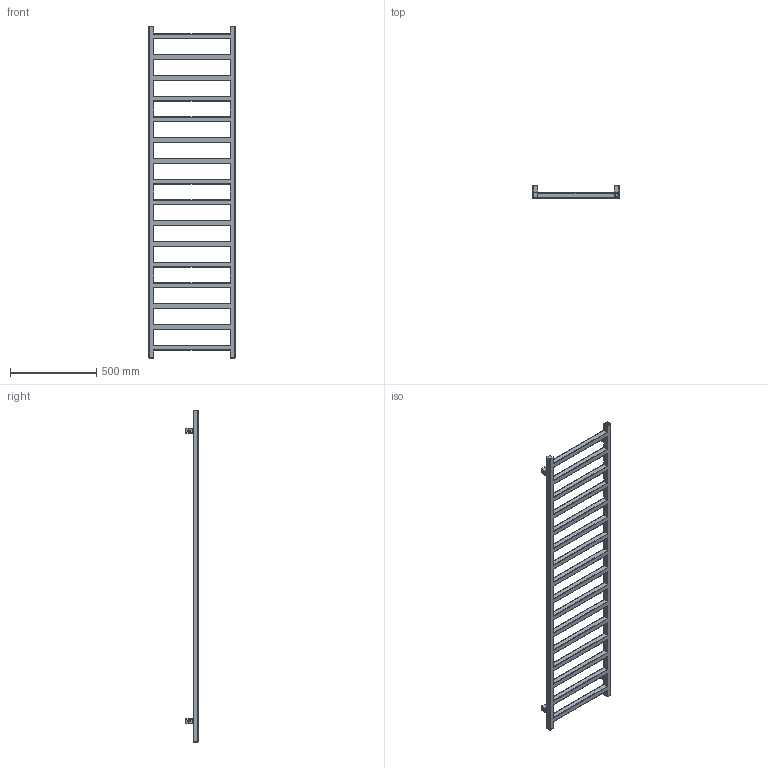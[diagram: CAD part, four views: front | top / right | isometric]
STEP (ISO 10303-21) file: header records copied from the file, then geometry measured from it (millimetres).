
FILE_DESCRIPTION((''),'2;1');
FILE_NAME('Z:\R\G\P\RGP035 - Grzejnik Simple\Work\Inventor\Marketing\AutoCad 3D\SIM-1920-500-1-5-8.stp','2012-07-12T14:53:24',('KurKa'),(''),'Autodesk Inventor 2012','Autodesk Inventor 2012','');
FILE_SCHEMA(('AUTOMOTIVE_DESIGN { 1 0 10303 214 1 1 1 1 }'));
Length unit declared in the file: millimetre
Products named in the file (3): SIM-1920-500-1-5-8; MMT42_marketing
Assembly tree (5 placements, depth 2):
  SIM-1920-500-1-5-8
    SIM-1920-500-1-5-8
    MMT42_marketing  x4
Bounding box: 506 x 72 x 1920 mm (x, y, z)
Volume: 9878152.1 mm3; surface area: 1270578.8 mm2
Topology: 5 solids, 5 shells, 451 faces, 1171 edges, 753 vertices
Faces by surface type: cylinder 211, plane 185, cone 24, torus 19, bspline 12
Full cylindrical faces by diameter (mm): 4.134 x4, 4.509 x4, 10 x4, 12 x4, 18.631 x3
Entity records: 11711 total; most frequent: CARTESIAN_POINT 3836, ORIENTED_EDGE 1640, DIRECTION 1570, EDGE_CURVE 820, AXIS2_PLACEMENT_3D 570, VERTEX_POINT 544, VECTOR 430, LINE 430
